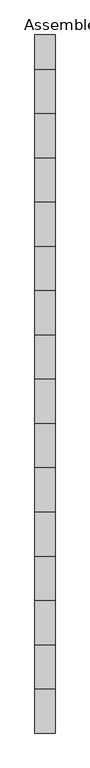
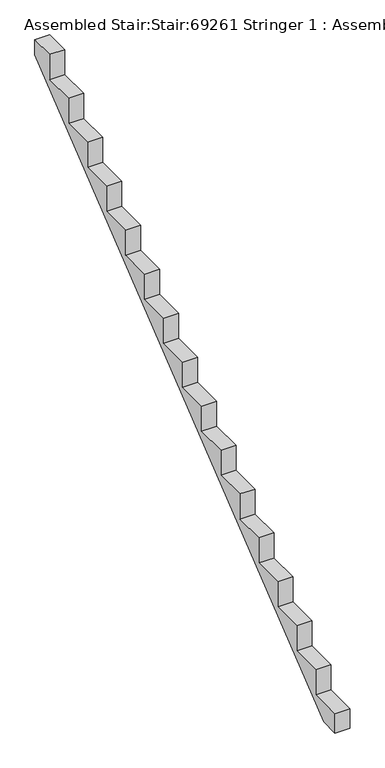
"""IFC4 building model written with IfcOpenShell, lengths in millimetres: stair geometry, Assembled Stair:Stair:69261 Stringer 1 : Assembled Stair:Stair:69261 Stringer 1."""

from ifc_helpers import new_model, si_unit, frame, origin, place, context, project, spatial, polyline, outline, extrude, source, transform, mapped, element, save


def assembled_stair_stair_69261_stringer_1_assembled_stair_stair_a59cbee6(model_context):
    return source(origin(), model_context, "Body", "SweptSolid", [
        extrude(outline(polyline([(-21974.6322236, 2783.5294118), (-21804.6322236, 2783.5294118), (-21804.6322236, 2679.3243508), (-25144.8565809, 0.0), (-25274.6322236, 0.0), (-25274.6322236, 136.4705882), (-25054.6322236, 136.4705882), (-25054.6322236, 312.9411765), (-24834.6322236, 312.9411765), (-24834.6322236, 489.4117647), (-24614.6322236, 489.4117647), (-24614.6322236, 665.8823529), (-24394.6322236, 665.8823529), (-24394.6322236, 842.3529412), (-24174.6322236, 842.3529412), (-24174.6322236, 1018.8235294), (-23954.6322236, 1018.8235294), (-23954.6322236, 1195.2941176), (-23734.6322236, 1195.2941176), (-23734.6322236, 1371.7647059), (-23514.6322236, 1371.7647059), (-23514.6322236, 1548.2352941), (-23294.6322236, 1548.2352941), (-23294.6322236, 1724.7058824), (-23074.6322236, 1724.7058824), (-23074.6322236, 1901.1764706), (-22854.6322236, 1901.1764706), (-22854.6322236, 2077.6470588), (-22634.6322236, 2077.6470588), (-22634.6322236, 2254.1176471), (-22414.6322236, 2254.1176471), (-22414.6322236, 2430.5882353), (-22194.6322236, 2430.5882353), (-22194.6322236, 2607.0588235), (-21974.6322236, 2607.0588235), (-21974.6322236, 2783.5294118)])), frame((23724.8089026, 0.0, 0.0), z_axis=(1.0, 0.0, 0.0), x_axis=(0.0, 1.0, 0.0)), (0.0, 0.0, 1.0), 100.0),
    ])


if __name__ == "__main__":
    model = new_model("IFC4")
    model_context = context("Model", 3, world=origin())
    ifc_project = project(units=[si_unit("LENGTHUNIT", "METRE", prefix="MILLI")], contexts=[model_context])
    site = spatial("IfcSite", under=ifc_project)
    building = spatial("IfcBuilding", under=site)
    placement = place(None, origin())
    assembled_stair_stair_69261_stringer_1_assembled_stair_stair_shape = assembled_stair_stair_69261_stringer_1_assembled_stair_stair_a59cbee6(model_context)
    element("IfcStair", 1, ObjectType="Assembled Stair:Stair:69261 Stringer 1 : Assembled Stair:Stair:69261 Stringer 1", at=placement, inside=building, context=model_context, shape_type="MappedRepresentation", body=[
        mapped(assembled_stair_stair_69261_stringer_1_assembled_stair_stair_shape, transform((0.0, 0.0, 0.0), x_axis=(1.0, 0.0, 0.0), y_axis=(0.0, 1.0, 0.0), z_axis=(0.0, 0.0, 1.0))),
    ])
    save(model, "model.ifc")
